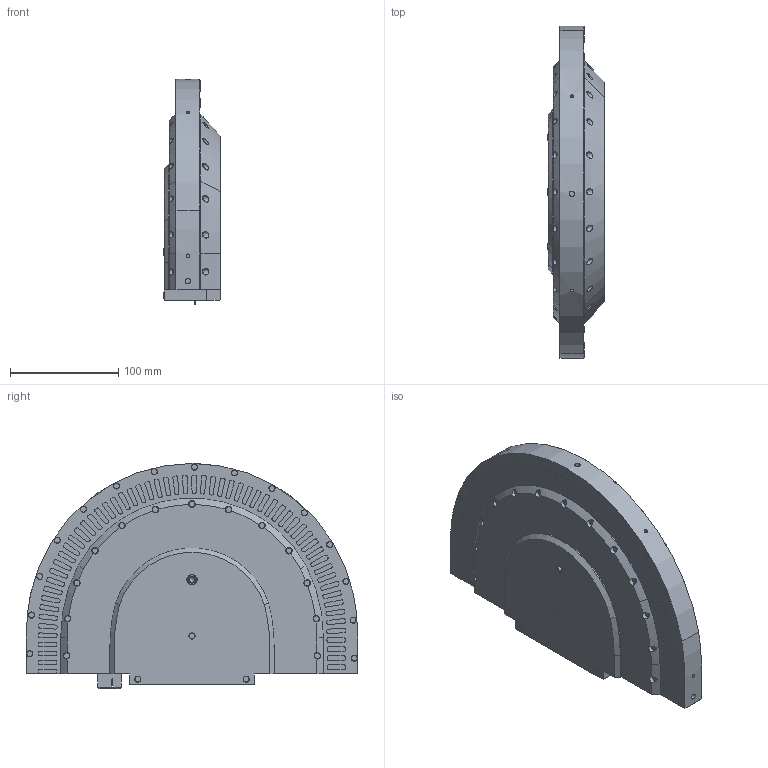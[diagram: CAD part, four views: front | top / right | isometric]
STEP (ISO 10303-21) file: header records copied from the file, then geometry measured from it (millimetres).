
FILE_DESCRIPTION(/* description */ ('AT2050-0500-0001'),/* implementation_level */ '2;1');
FILE_NAME(/* name */ '0000018282_AT2050-0500-0001.stp',/* time_stamp */ '2024-04-26T09:28:03+02:00',/* author */ ('PhilE'),/* organization */ (''),/* preprocessor_version */ 'ST-DEVELOPER v20',/* originating_system */ 'Autodesk Inventor 2024',/* authorisation */ '');
FILE_SCHEMA (('AUTOMOTIVE_DESIGN { 1 0 10303 214 3 1 1 }'));
Length unit declared in the file: millimetre
Products named in the file (1): 0000018282_AT2050-0500-0001
Bounding box: 52.6 x 306.7 x 208 mm (x, y, z)
Volume: 1943984.5 mm3; surface area: 143140.6 mm2
Topology: 1 solids, 1 shells, 560 faces, 1957 edges, 1626 vertices
Faces by surface type: plane 323, cylinder 153, torus 63, cone 17, bspline 4
Full cylindrical faces by diameter (mm): 3 x4, 3.242 x13, 4.134 x3, 4.917 x1, 5 x5, 5.5 x3, 5.7 x61, 6 x28, 9 x1, 9.5 x1
Entity records: 24370 total; most frequent: CARTESIAN_POINT 5630, DIRECTION 3958, ORIENTED_EDGE 3900, EDGE_CURVE 1950, VERTEX_POINT 1626, AXIS2_PLACEMENT_3D 1538, CIRCLE 973, LINE 882
